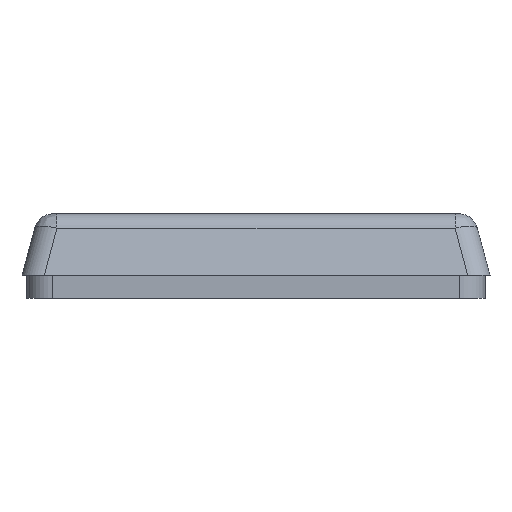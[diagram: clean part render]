
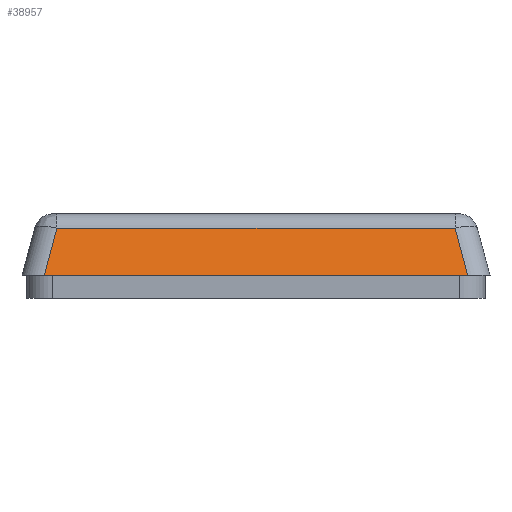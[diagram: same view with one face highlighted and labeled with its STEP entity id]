
A CAD part, left-side view. The second image highlights one B-rep face of the part: STEP entity #38957.
In plain terms, the highlighted planar face has unit normal (-0.966, 0, 0.259).
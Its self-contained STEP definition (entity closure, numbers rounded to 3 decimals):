
#2720=PLANE('',#42399);
#5564=LINE('',#66583,#8809);
#5573=LINE('',#66670,#8818);
#5575=LINE('',#66703,#8820);
#5576=LINE('',#66705,#8821);
#8809=VECTOR('',#51707,10.);
#8818=VECTOR('',#51748,10.);
#8820=VECTOR('',#51760,10.);
#8821=VECTOR('',#51763,10.);
#12042=FACE_OUTER_BOUND('',#14637,.T.);
#14637=EDGE_LOOP('',(#34273,#34274,#34275,#34276));
#19493=VERTEX_POINT('',#66580);
#19494=VERTEX_POINT('',#66582);
#19505=VERTEX_POINT('',#66663);
#19507=VERTEX_POINT('',#66699);
#24599=EDGE_CURVE('',#19493,#19494,#5564,.T.);
#24620=EDGE_CURVE('',#19505,#19493,#5573,.T.);
#24624=EDGE_CURVE('',#19494,#19507,#5575,.T.);
#24625=EDGE_CURVE('',#19507,#19505,#5576,.T.);
#34273=ORIENTED_EDGE('',*,*,#24620,.F.);
#34274=ORIENTED_EDGE('',*,*,#24625,.F.);
#34275=ORIENTED_EDGE('',*,*,#24624,.F.);
#34276=ORIENTED_EDGE('',*,*,#24599,.F.);
#38957=ADVANCED_FACE('',(#12042),#2720,.F.);
#42399=AXIS2_PLACEMENT_3D('',#66706,#51764,#51765);
#51707=DIRECTION('',(0.,1.,0.));
#51748=DIRECTION('',(-0.251,-0.251,-0.935));
#51760=DIRECTION('',(0.251,-0.251,0.935));
#51763=DIRECTION('',(0.,-1.,0.));
#51764=DIRECTION('center_axis',(0.966,0.,-0.259));
#51765=DIRECTION('ref_axis',(-0.259,0.,-0.966));
#66580=CARTESIAN_POINT('',(-61.5,-27.602,-4.));
#66582=CARTESIAN_POINT('',(-61.5,27.602,-4.));
#66583=CARTESIAN_POINT('',(-61.5,15.25,-4.));
#66663=CARTESIAN_POINT('',(-59.853,-25.955,2.147));
#66670=CARTESIAN_POINT('',(-58.223,-24.326,8.228));
#66699=CARTESIAN_POINT('',(-59.853,25.955,2.147));
#66703=CARTESIAN_POINT('',(-56.277,22.379,15.492));
#66705=CARTESIAN_POINT('',(-59.853,30.5,2.147));
#66706=CARTESIAN_POINT('Origin',(-59.853,30.5,2.147));
